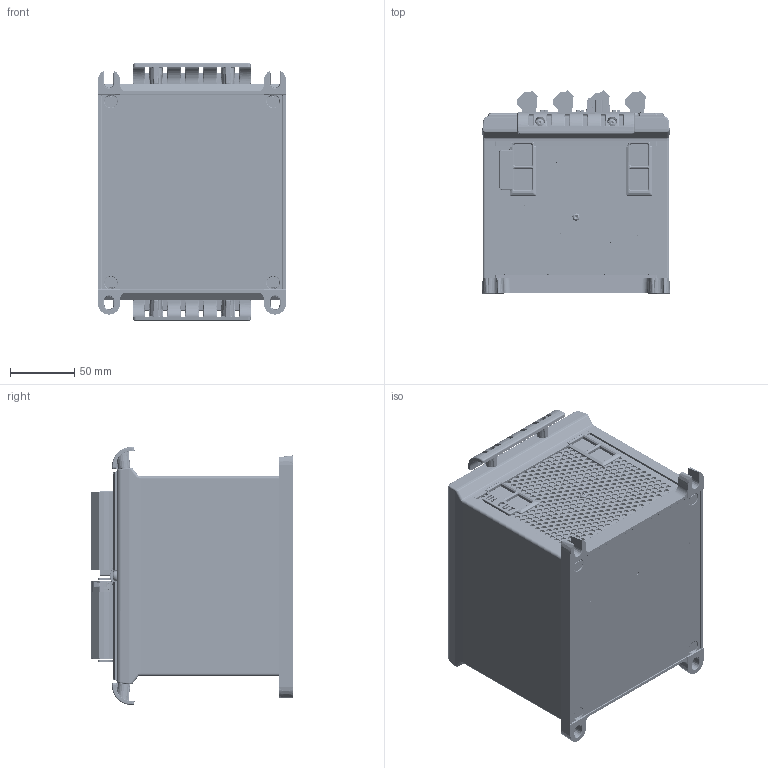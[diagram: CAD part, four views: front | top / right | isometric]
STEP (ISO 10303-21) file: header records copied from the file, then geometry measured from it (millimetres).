
FILE_DESCRIPTION(/* description */ (''),/* implementation_level */ '2;1');
FILE_NAME(/* name */ 'R:\00arbdir\STEP-filer - KUNDER\ML300_R4.1\ML300_R4.1_Shw..stp',/* time_stamp */ '2020-11-24T13:38:48+01:00',/* author */ ('heo'),/* organization */ (''),/* preprocessor_version */ 'ST-DEVELOPER v18.1',/* originating_system */ 'Autodesk Inventor 2020',/* authorisation */ '');
FILE_SCHEMA (('AUTOMOTIVE_DESIGN { 1 0 10303 214 3 1 1 }'));
Products named in the file (1): 1101010051_sh_Shrinkwrap_1
Bounding box: 146.11 x 157.45 x 199.89 mm (x, y, z)
Volume: 2794642 mm3; surface area: 370313 mm2
Topology: 39 solids, 44 shells, 23238 faces, 63191 edges, 39816 vertices
Faces by surface type: plane 13216, cylinder 5025, bspline 3224, cone 914, torus 642, sphere 217
Full cylindrical faces by diameter (mm): 0.434 x3, 0.457 x1, 0.9 x56, 1 x28, 1.4 x11, 1.6 x28, 1.7 x14, 1.8 x2, 2.2 x12, 2.3 x28, 2.4 x2, 2.5 x31, 2.6 x12, 3 x72, 3.2 x14, 3.3 x20, 3.571 x4, 3.783 x11, 3.8 x2, 3.9 x10, 4 x62, 4.1 x4, 4.4 x8, 4.5 x12, 5.5 x8, 5.6 x6, 8 x10
Entity records: 869123 total; most frequent: CARTESIAN_POINT 275014, ORIENTED_EDGE 125366, DIRECTION 111446, EDGE_CURVE 62721, LINE 41788, VECTOR 41788, VERTEX_POINT 39816, AXIS2_PLACEMENT_3D 34829
